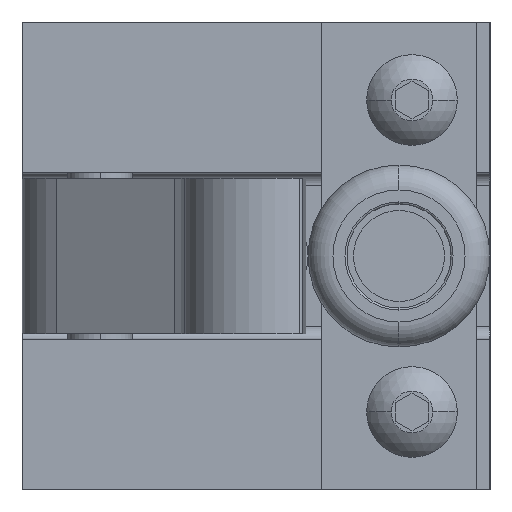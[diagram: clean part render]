
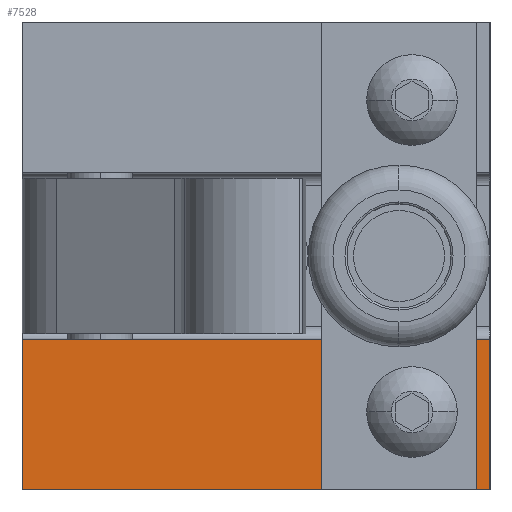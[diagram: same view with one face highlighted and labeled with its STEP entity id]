
A CAD part, left-side view. The second image highlights one B-rep face of the part: STEP entity #7528.
In plain terms, the highlighted planar face has unit normal (-1, 0, 0).
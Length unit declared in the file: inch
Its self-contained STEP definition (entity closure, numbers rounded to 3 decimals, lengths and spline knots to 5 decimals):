
#6741 = VERTEX_POINT ( 'NONE', #18852 ) ;
#6809 = VERTEX_POINT ( 'NONE', #19108 ) ;
#6833 = EDGE_CURVE ( 'NONE', #6809, #6741, #19134, .T. ) ;
#6851 = VERTEX_POINT ( 'NONE', #19321 ) ;
#6853 = EDGE_CURVE ( 'NONE', #6851, #6854, #19420, .T. ) ;
#6854 = VERTEX_POINT ( 'NONE', #19329 ) ;
#7528 = ADVANCED_FACE ( 'NONE', ( #21094, #21259 ), #21103, .T. ) ;
#7529 = ORIENTED_EDGE ( 'NONE', *, *, #7530, .T. ) ;
#7530 = EDGE_CURVE ( 'NONE', #7555, #7551, #21121, .T. ) ;
#7534 = EDGE_LOOP ( 'NONE', ( #7535, #7537 ) ) ;
#7535 = ORIENTED_EDGE ( 'NONE', *, *, #7536, .F. ) ;
#7536 = EDGE_CURVE ( 'NONE', #6854, #6851, #21149, .T. ) ;
#7537 = ORIENTED_EDGE ( 'NONE', *, *, #6853, .F. ) ;
#7538 = EDGE_LOOP ( 'NONE', ( #7549, #7552, #7553, #7529 ) ) ;
#7549 = ORIENTED_EDGE ( 'NONE', *, *, #7550, .F. ) ;
#7550 = EDGE_CURVE ( 'NONE', #6741, #7551, #21460, .T. ) ;
#7551 = VERTEX_POINT ( 'NONE', #21512 ) ;
#7552 = ORIENTED_EDGE ( 'NONE', *, *, #6833, .F. ) ;
#7553 = ORIENTED_EDGE ( 'NONE', *, *, #7554, .T. ) ;
#7554 = EDGE_CURVE ( 'NONE', #6809, #7555, #21447, .T. ) ;
#7555 = VERTEX_POINT ( 'NONE', #21357 ) ;
#18852 = CARTESIAN_POINT ( 'NONE',  ( 7.43951, 6.00404, -1.525 ) ) ;
#19108 = CARTESIAN_POINT ( 'NONE',  ( 7.43951, 6.00404, -2.25 ) ) ;
#19131 = DIRECTION ( 'NONE',  ( 0., 0., 1. ) ) ;
#19132 = VECTOR ( 'NONE', #19131, 39.37008 ) ;
#19133 = CARTESIAN_POINT ( 'NONE',  ( 7.43951, 6.00404, -2.25 ) ) ;
#19134 = LINE ( 'NONE', #19133, #19132 ) ;
#19257 = DIRECTION ( 'NONE',  ( -1., 0., 0. ) ) ;
#19321 = CARTESIAN_POINT ( 'NONE',  ( 7.43951, 4.12904, -2. ) ) ;
#19326 = AXIS2_PLACEMENT_3D ( 'NONE', #19457, #19257, #19345 ) ;
#19329 = CARTESIAN_POINT ( 'NONE',  ( 7.43951, 4.12904, -1.75 ) ) ;
#19345 = DIRECTION ( 'NONE',  ( 0., 0., 1. ) ) ;
#19420 = CIRCLE ( 'NONE', #19326, 0.125 ) ;
#19457 = CARTESIAN_POINT ( 'NONE',  ( 7.43951, 4.12904, -1.875 ) ) ;
#20703 = AXIS2_PLACEMENT_3D ( 'NONE', #21358, #21506, #21495 ) ;
#21094 = FACE_BOUND ( 'NONE', #7534, .T. ) ;
#21103 = PLANE ( 'NONE',  #21105 ) ;
#21104 = CARTESIAN_POINT ( 'NONE',  ( 7.43951, 3.75404, -2.25 ) ) ;
#21105 = AXIS2_PLACEMENT_3D ( 'NONE', #21104, #21124, #21123 ) ;
#21118 = DIRECTION ( 'NONE',  ( 0., 0., 1. ) ) ;
#21119 = VECTOR ( 'NONE', #21118, 39.37008 ) ;
#21120 = CARTESIAN_POINT ( 'NONE',  ( 7.43951, 3.75404, -2.25 ) ) ;
#21121 = LINE ( 'NONE', #21120, #21119 ) ;
#21123 = DIRECTION ( 'NONE',  ( 0., 0., 1. ) ) ;
#21124 = DIRECTION ( 'NONE',  ( -1., 0., 0. ) ) ;
#21149 = CIRCLE ( 'NONE', #20703, 0.125 ) ;
#21259 = FACE_OUTER_BOUND ( 'NONE', #7538, .T. ) ;
#21357 = CARTESIAN_POINT ( 'NONE',  ( 7.43951, 3.75404, -2.25 ) ) ;
#21358 = CARTESIAN_POINT ( 'NONE',  ( 7.43951, 4.12904, -1.875 ) ) ;
#21380 = DIRECTION ( 'NONE',  ( 0., -1., 0. ) ) ;
#21381 = VECTOR ( 'NONE', #21380, 39.37008 ) ;
#21382 = CARTESIAN_POINT ( 'NONE',  ( 7.43951, 3.75404, -2.25 ) ) ;
#21441 = CARTESIAN_POINT ( 'NONE',  ( 7.43951, 3.75404, -1.525 ) ) ;
#21447 = LINE ( 'NONE', #21382, #21381 ) ;
#21460 = LINE ( 'NONE', #21441, #21514 ) ;
#21495 = DIRECTION ( 'NONE',  ( 0., 0., 1. ) ) ;
#21506 = DIRECTION ( 'NONE',  ( -1., 0., 0. ) ) ;
#21512 = CARTESIAN_POINT ( 'NONE',  ( 7.43951, 3.75404, -1.525 ) ) ;
#21513 = DIRECTION ( 'NONE',  ( 0., -1., 0. ) ) ;
#21514 = VECTOR ( 'NONE', #21513, 39.37008 ) ;
